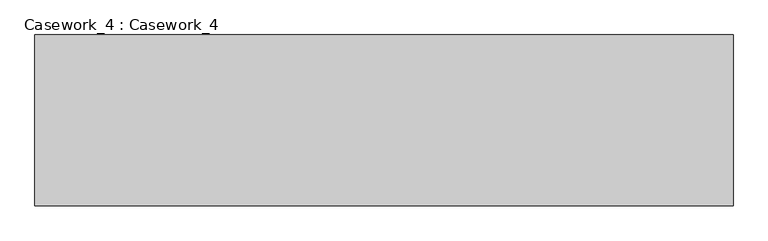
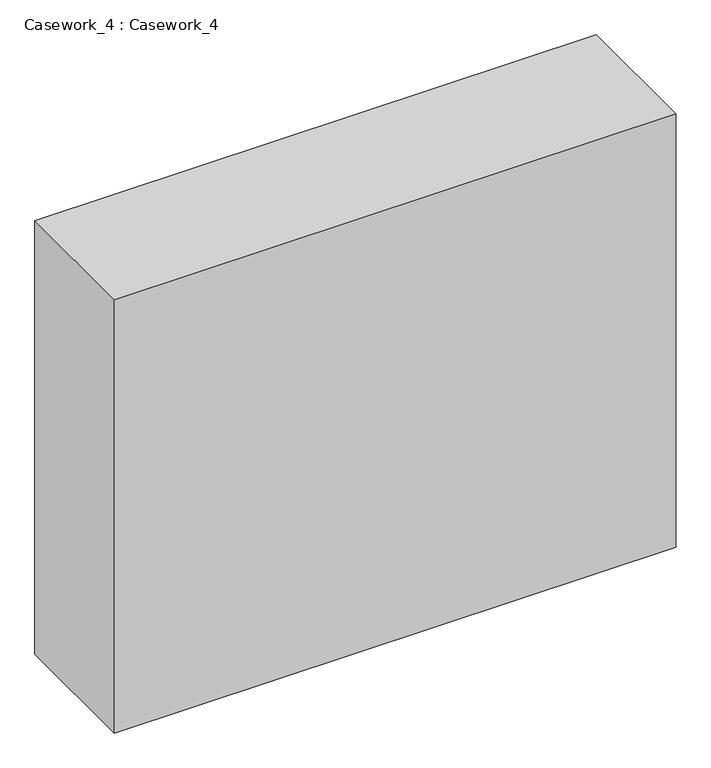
"""IFC4 building model written with IfcOpenShell, lengths in millimetres: furniture geometry, Casework_4 : Casework_4."""

from ifc_helpers import new_model, si_unit, frame, origin, place, context, project, spatial, polyline, outline, extrude, faceted_brep, source, transform, mapped, element, save


def casework_4_casework_4_1af3687d(model_context):
    return source(origin(), model_context, "Body", "SolidModel", [
        faceted_brep([(-622.3496094, 0.0, 1016.0), (622.3496094, 0.0, 1016.0), (622.3496094, 304.8, 1016.0), (-622.3496094, 304.8, 1016.0), (622.3496094, 0.0, 0.0), (-622.3496094, 0.0, 0.0), (-622.3496094, 304.8, 0.0), (622.3496094, 304.8, 0.0), (-596.9496094, 38.1, 990.6), (596.9496094, 38.1, 990.6), (596.9496094, 38.1, 25.4), (-596.9496094, 38.1, 25.4), (596.9496094, 279.4, 990.6), (-596.9496094, 279.4, 990.6), (596.9496094, 279.4, 25.4), (-596.9496094, 279.4, 25.4), (50.8, 304.8, 964.5660894), (50.8, 304.8, 50.8), (571.5496094, 304.8, 50.8), (571.5496094, 304.8, 964.5660894), (-50.8, 304.8, 50.8), (-50.8, 304.8, 965.2), (-571.5496094, 304.8, 965.2), (-571.5496094, 304.8, 50.8), (50.8, 279.4, 964.5660894), (571.5496094, 279.4, 964.5660894), (571.5496094, 279.4, 50.8), (50.8, 279.4, 50.8), (-50.8, 279.4, 50.8), (-571.5496094, 279.4, 50.8), (-571.5496094, 279.4, 965.2), (-50.8, 279.4, 965.2)], [[[0, 1, 2, 3]], [[4, 5, 6, 7]], [[1, 0, 5, 4]], [[6, 5, 0, 3]], [[8, 9, 10, 11]], [[2, 1, 4, 7]], [[12, 9, 8, 13]], [[9, 12, 14, 10]], [[10, 14, 15, 11]], [[13, 8, 11, 15]], [[2, 7, 6, 3], [16, 17, 18, 19], [20, 21, 22, 23]], [[12, 13, 15, 14], [24, 25, 26, 27], [28, 29, 30, 31]], [[16, 19, 25, 24]], [[19, 18, 26, 25]], [[20, 23, 29, 28]], [[23, 22, 30, 29]], [[18, 17, 27, 26]], [[17, 16, 24, 27]], [[22, 21, 31, 30]], [[21, 20, 28, 31]]]),
        extrude(outline(polyline([(-571.5496094, 298.45), (-50.8, 298.45), (-50.8, 285.75), (-571.5496094, 285.75), (-571.5496094, 298.45)])), frame((0.0, 0.0, 50.8), z_axis=(0.0, 0.0, 1.0), x_axis=(1.0, 0.0, 0.0)), (0.0, 0.0, 1.0), 913.7660894),
        extrude(outline(polyline([(50.8, 298.45), (571.5496094, 298.45), (571.5496094, 285.75), (50.8, 285.75), (50.8, 298.45)])), frame((0.0, 0.0, 50.8), z_axis=(0.0, 0.0, 1.0), x_axis=(1.0, 0.0, 0.0)), (0.0, 0.0, 1.0), 913.7660894),
    ])


if __name__ == "__main__":
    model = new_model("IFC4")
    model_context = context("Model", 3, world=origin())
    ifc_project = project(units=[si_unit("LENGTHUNIT", "METRE", prefix="MILLI")], contexts=[model_context])
    site = spatial("IfcSite", under=ifc_project)
    building = spatial("IfcBuilding", under=site)
    placement = place(None, origin())
    casework_4_casework_4_shape = casework_4_casework_4_1af3687d(model_context)
    element("IfcFurniture", 1, ObjectType="Casework_4 : Casework_4", at=placement, inside=building, context=model_context, shape_type="MappedRepresentation", body=[
        mapped(casework_4_casework_4_shape, transform((0.0, 0.0, 0.0), x_axis=(1.0, 0.0, 0.0), y_axis=(0.0, 1.0, 0.0), z_axis=(0.0, 0.0, 1.0))),
    ])
    save(model, "model.ifc")
